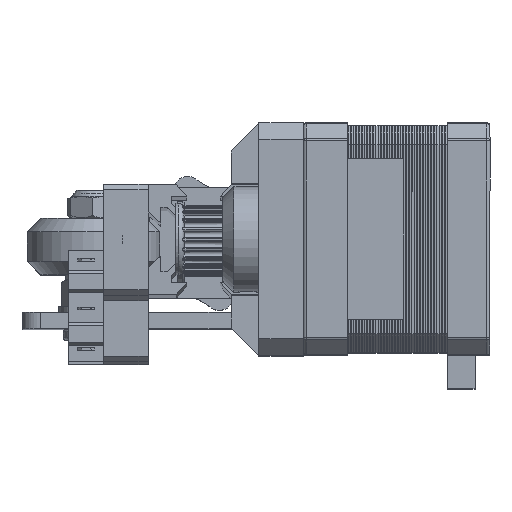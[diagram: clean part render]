
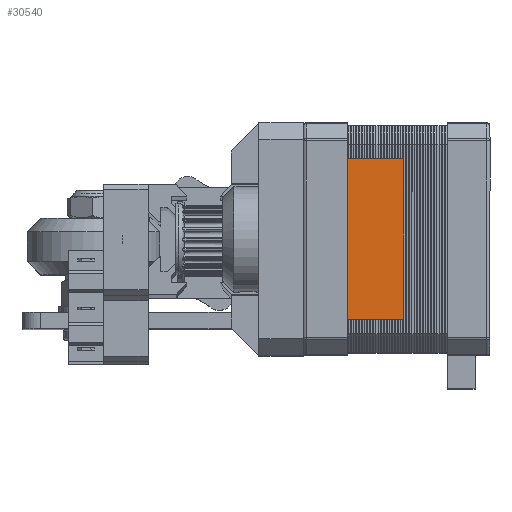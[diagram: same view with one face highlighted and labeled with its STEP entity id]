
A CAD part, top view. The second image highlights one B-rep face of the part: STEP entity #30540.
In plain terms, the highlighted planar face has unit normal (0, 0, 1) as drawn and (0, -1, 0) by its records, which use the part's own axes.
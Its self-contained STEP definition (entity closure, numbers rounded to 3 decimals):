
#2909=PLANE('',#33597);
#5054=FACE_OUTER_BOUND('',#6979,.T.);
#6979=EDGE_LOOP('',(#28641,#28642,#28643,#28644));
#8206=LINE('',#48544,#11119);
#9873=LINE('',#52044,#12786);
#9875=LINE('',#52047,#12788);
#9876=LINE('',#52049,#12789);
#11119=VECTOR('',#38562,10.);
#12786=VECTOR('',#41825,10.);
#12788=VECTOR('',#41829,10.);
#12789=VECTOR('',#41832,10.);
#15416=VERTEX_POINT('',#48521);
#15427=VERTEX_POINT('',#48542);
#16461=VERTEX_POINT('',#52041);
#16462=VERTEX_POINT('',#52043);
#18790=EDGE_CURVE('',#15427,#15416,#8206,.T.);
#20533=EDGE_CURVE('',#16462,#16461,#9873,.T.);
#20535=EDGE_CURVE('',#16461,#15416,#9875,.T.);
#20536=EDGE_CURVE('',#15427,#16462,#9876,.T.);
#28641=ORIENTED_EDGE('',*,*,#18790,.F.);
#28642=ORIENTED_EDGE('',*,*,#20536,.T.);
#28643=ORIENTED_EDGE('',*,*,#20533,.T.);
#28644=ORIENTED_EDGE('',*,*,#20535,.T.);
#30540=ADVANCED_FACE('',(#5054),#2909,.T.);
#33597=AXIS2_PLACEMENT_3D('',#52050,#41833,#41834);
#38562=DIRECTION('',(1.,0.,0.));
#41825=DIRECTION('',(1.,0.,0.));
#41829=DIRECTION('',(0.,0.,1.));
#41832=DIRECTION('',(0.,0.,-1.));
#41833=DIRECTION('center_axis',(0.,-1.,0.));
#41834=DIRECTION('ref_axis',(0.,0.,-1.));
#48521=CARTESIAN_POINT('',(14.559,-20.6,-8.));
#48542=CARTESIAN_POINT('',(-14.487,-20.6,-8.));
#48544=CARTESIAN_POINT('',(0.018,-20.6,-8.));
#52041=CARTESIAN_POINT('',(14.559,-20.6,-18.125));
#52043=CARTESIAN_POINT('',(-14.487,-20.6,-18.125));
#52044=CARTESIAN_POINT('',(-17.086,-20.6,-18.125));
#52047=CARTESIAN_POINT('',(14.559,-20.6,-18.125));
#52049=CARTESIAN_POINT('',(-14.487,-20.6,-7.));
#52050=CARTESIAN_POINT('Origin',(0.036,-20.6,-12.563));
